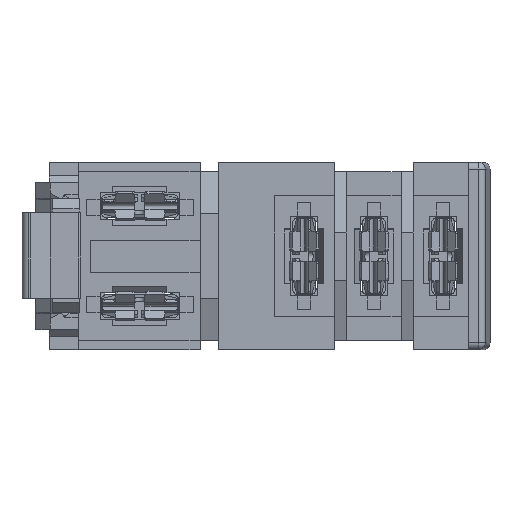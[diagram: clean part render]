
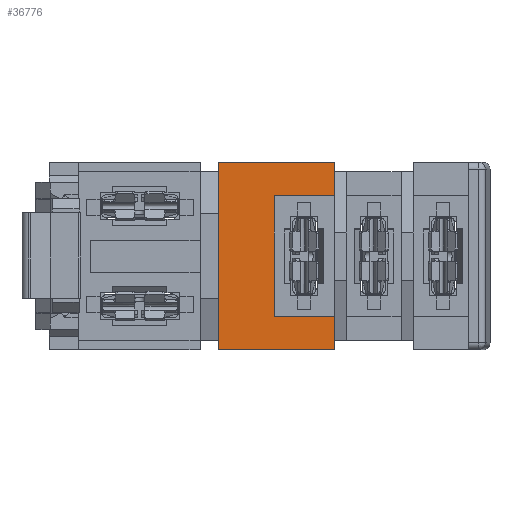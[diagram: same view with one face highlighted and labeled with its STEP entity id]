
A CAD part, top view. The second image highlights one B-rep face of the part: STEP entity #36776.
In plain terms, the highlighted planar face has unit normal (0, 0, 1).
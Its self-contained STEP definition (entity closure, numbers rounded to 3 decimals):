
#18 = LINE ( 'NONE', #1075, #5736 ) ;
#299 = CARTESIAN_POINT ( 'NONE',  ( -13.244, -7.927, 6.5 ) ) ;
#632 = VERTEX_POINT ( 'NONE', #34566 ) ;
#813 = CARTESIAN_POINT ( 'NONE',  ( 1.406, 6.073, 6.5 ) ) ;
#1075 = CARTESIAN_POINT ( 'NONE',  ( 1.406, -5.427, 6.5 ) ) ;
#1303 = DIRECTION ( 'NONE',  ( 0., 1., 0. ) ) ;
#3876 = FACE_OUTER_BOUND ( 'NONE', #34622, .T. ) ;
#5317 = DIRECTION ( 'NONE',  ( -1., 0., 0. ) ) ;
#5349 = LINE ( 'NONE', #21800, #39513 ) ;
#5361 = CARTESIAN_POINT ( 'NONE',  ( 1.406, -7.927, 6.5 ) ) ;
#5594 = VERTEX_POINT ( 'NONE', #813 ) ;
#5736 = VECTOR ( 'NONE', #17679, 1000. ) ;
#6354 = CARTESIAN_POINT ( 'NONE',  ( 1.406, -5.427, 6.5 ) ) ;
#7280 = EDGE_CURVE ( 'NONE', #39194, #34050, #38302, .T. ) ;
#7289 = CARTESIAN_POINT ( 'NONE',  ( -7.294, -7.927, 6.5 ) ) ;
#8151 = VERTEX_POINT ( 'NONE', #14888 ) ;
#8292 = EDGE_CURVE ( 'NONE', #8151, #632, #33009, .T. ) ;
#9601 = ORIENTED_EDGE ( 'NONE', *, *, #8292, .T. ) ;
#9962 = CARTESIAN_POINT ( 'NONE',  ( -3.094, 3.573, 6.5 ) ) ;
#10466 = PLANE ( 'NONE',  #21279 ) ;
#10886 = DIRECTION ( 'NONE',  ( 1., 0., 0. ) ) ;
#11929 = VERTEX_POINT ( 'NONE', #7289 ) ;
#12864 = ORIENTED_EDGE ( 'NONE', *, *, #27557, .F. ) ;
#13251 = CARTESIAN_POINT ( 'NONE',  ( -7.294, 6.073, 6.5 ) ) ;
#13582 = VECTOR ( 'NONE', #39970, 1000. ) ;
#14463 = CARTESIAN_POINT ( 'NONE',  ( -7.294, -7.927, 6.5 ) ) ;
#14888 = CARTESIAN_POINT ( 'NONE',  ( -3.094, 3.573, 6.5 ) ) ;
#15412 = VECTOR ( 'NONE', #10886, 1000. ) ;
#17103 = DIRECTION ( 'NONE',  ( 0., -1., 0. ) ) ;
#17679 = DIRECTION ( 'NONE',  ( 0., -1., 0. ) ) ;
#18572 = EDGE_CURVE ( 'NONE', #11929, #22317, #24883, .T. ) ;
#20427 = LINE ( 'NONE', #9962, #28190 ) ;
#21279 = AXIS2_PLACEMENT_3D ( 'NONE', #33455, #26814, #17103 ) ;
#21800 = CARTESIAN_POINT ( 'NONE',  ( -13.244, 6.073, 6.5 ) ) ;
#22093 = EDGE_CURVE ( 'NONE', #5594, #22317, #5349, .T. ) ;
#22262 = VECTOR ( 'NONE', #27709, 1000. ) ;
#22317 = VERTEX_POINT ( 'NONE', #13251 ) ;
#24406 = CARTESIAN_POINT ( 'NONE',  ( 1.406, 6.073, 6.5 ) ) ;
#24883 = LINE ( 'NONE', #14463, #32612 ) ;
#25245 = ORIENTED_EDGE ( 'NONE', *, *, #22093, .T. ) ;
#26438 = ORIENTED_EDGE ( 'NONE', *, *, #7280, .T. ) ;
#26814 = DIRECTION ( 'NONE',  ( 0., 0., -1. ) ) ;
#27557 = EDGE_CURVE ( 'NONE', #8151, #34050, #20427, .T. ) ;
#27587 = ORIENTED_EDGE ( 'NONE', *, *, #38325, .F. ) ;
#27709 = DIRECTION ( 'NONE',  ( 0., -1., 0. ) ) ;
#28190 = VECTOR ( 'NONE', #39782, 1000. ) ;
#28813 = EDGE_CURVE ( 'NONE', #11929, #37322, #31176, .T. ) ;
#28919 = ORIENTED_EDGE ( 'NONE', *, *, #30051, .F. ) ;
#29520 = VECTOR ( 'NONE', #36675, 1000. ) ;
#30051 = EDGE_CURVE ( 'NONE', #5594, #632, #39880, .T. ) ;
#30493 = ORIENTED_EDGE ( 'NONE', *, *, #28813, .T. ) ;
#30614 = ORIENTED_EDGE ( 'NONE', *, *, #18572, .F. ) ;
#31176 = LINE ( 'NONE', #299, #13582 ) ;
#32612 = VECTOR ( 'NONE', #1303, 1000. ) ;
#33009 = LINE ( 'NONE', #40549, #15412 ) ;
#33455 = CARTESIAN_POINT ( 'NONE',  ( -3.144, 6.073, 6.5 ) ) ;
#34050 = VERTEX_POINT ( 'NONE', #40362 ) ;
#34566 = CARTESIAN_POINT ( 'NONE',  ( 1.406, 3.573, 6.5 ) ) ;
#34622 = EDGE_LOOP ( 'NONE', ( #30614, #30493, #27587, #26438, #12864, #9601, #28919, #25245 ) ) ;
#36544 = CARTESIAN_POINT ( 'NONE',  ( -3.144, -5.427, 6.5 ) ) ;
#36675 = DIRECTION ( 'NONE',  ( -1., 0., 0. ) ) ;
#36776 = ADVANCED_FACE ( 'NONE', ( #3876 ), #10466, .F. ) ;
#37322 = VERTEX_POINT ( 'NONE', #5361 ) ;
#38302 = LINE ( 'NONE', #36544, #29520 ) ;
#38325 = EDGE_CURVE ( 'NONE', #39194, #37322, #18, .T. ) ;
#39194 = VERTEX_POINT ( 'NONE', #6354 ) ;
#39513 = VECTOR ( 'NONE', #5317, 1000. ) ;
#39782 = DIRECTION ( 'NONE',  ( 0., -1., 0. ) ) ;
#39880 = LINE ( 'NONE', #24406, #22262 ) ;
#39970 = DIRECTION ( 'NONE',  ( 1., 0., 0. ) ) ;
#40362 = CARTESIAN_POINT ( 'NONE',  ( -3.094, -5.427, 6.5 ) ) ;
#40549 = CARTESIAN_POINT ( 'NONE',  ( -3.144, 3.573, 6.5 ) ) ;
